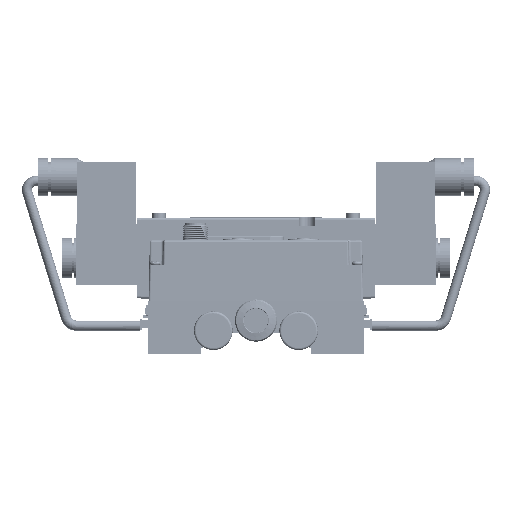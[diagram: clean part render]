
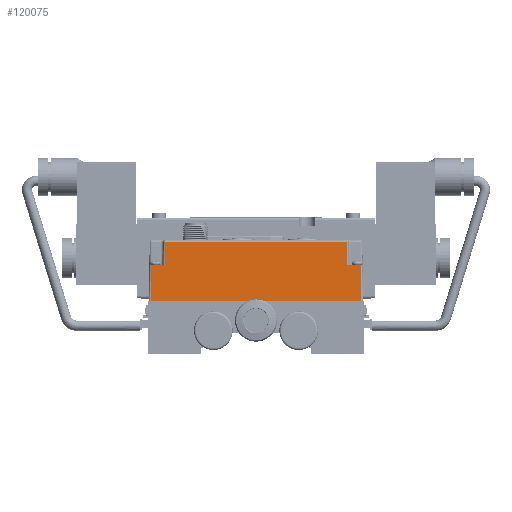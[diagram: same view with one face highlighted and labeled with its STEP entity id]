
A CAD part, front view. The second image highlights one B-rep face of the part: STEP entity #120075.
In plain terms, the highlighted planar face has unit normal (0, -1, 0.018).
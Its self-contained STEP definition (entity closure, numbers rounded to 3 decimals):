
#3819 = ORIENTED_EDGE ( 'NONE', *, *, #100760, .F. ) ;
#4365 = DIRECTION ( 'NONE',  ( 1., 0., 0. ) ) ;
#4432 = ORIENTED_EDGE ( 'NONE', *, *, #45980, .F. ) ;
#5757 = CARTESIAN_POINT ( 'NONE',  ( -1.909, 14.808, 43.7 ) ) ;
#7955 = CARTESIAN_POINT ( 'NONE',  ( -104.891, 14.809, 43.7 ) ) ;
#8032 = VECTOR ( 'NONE', #124791, 1000. ) ;
#9722 = LINE ( 'NONE', #134828, #143160 ) ;
#10818 = CARTESIAN_POINT ( 'NONE',  ( -104.891, 14.809, 43.7 ) ) ;
#11591 = EDGE_CURVE ( 'NONE', #91507, #58817, #12863, .T. ) ;
#11595 = VECTOR ( 'NONE', #4365, 1000. ) ;
#12863 = LINE ( 'NONE', #63759, #68106 ) ;
#15289 = VERTEX_POINT ( 'NONE', #98555 ) ;
#24155 = CARTESIAN_POINT ( 'NONE',  ( -8.798, 15.006, 55.017 ) ) ;
#29499 = VECTOR ( 'NONE', #71300, 1000. ) ;
#30001 = CARTESIAN_POINT ( 'NONE',  ( -98.2, 14.809, 43.7 ) ) ;
#30530 = ORIENTED_EDGE ( 'NONE', *, *, #98794, .F. ) ;
#32461 = LINE ( 'NONE', #30001, #56612 ) ;
#33926 = CARTESIAN_POINT ( 'NONE',  ( 0.847, 14.808, 43.7 ) ) ;
#38923 = ORIENTED_EDGE ( 'NONE', *, *, #11591, .F. ) ;
#43853 = VERTEX_POINT ( 'NONE', #163704 ) ;
#45980 = EDGE_CURVE ( 'NONE', #134361, #51264, #97314, .T. ) ;
#46273 = VECTOR ( 'NONE', #127210, 1000. ) ;
#47999 = ORIENTED_EDGE ( 'NONE', *, *, #48950, .F. ) ;
#48950 = EDGE_CURVE ( 'NONE', #51264, #15289, #32461, .T. ) ;
#51264 = VERTEX_POINT ( 'NONE', #89333 ) ;
#56612 = VECTOR ( 'NONE', #106721, 1000. ) ;
#58817 = VERTEX_POINT ( 'NONE', #82988 ) ;
#63759 = CARTESIAN_POINT ( 'NONE',  ( -8.798, 15.006, 55.017 ) ) ;
#64789 = ORIENTED_EDGE ( 'NONE', *, *, #95464, .F. ) ;
#68106 = VECTOR ( 'NONE', #114628, 1000. ) ;
#71300 = DIRECTION ( 'NONE',  ( 1., 0., 0. ) ) ;
#71469 = DIRECTION ( 'NONE',  ( 0.017, -0.017, -1. ) ) ;
#79945 = AXIS2_PLACEMENT_3D ( 'NONE', #87376, #153178, #100720 ) ;
#82988 = CARTESIAN_POINT ( 'NONE',  ( -8.6, 14.809, 43.7 ) ) ;
#85098 = DIRECTION ( 'NONE',  ( 0.017, 0.017, 1. ) ) ;
#87376 = CARTESIAN_POINT ( 'NONE',  ( 0.847, 14.5, 26. ) ) ;
#89333 = CARTESIAN_POINT ( 'NONE',  ( -98.2, 14.809, 43.7 ) ) ;
#91148 = LINE ( 'NONE', #156132, #11595 ) ;
#91507 = VERTEX_POINT ( 'NONE', #24155 ) ;
#95464 = EDGE_CURVE ( 'NONE', #15289, #91507, #91148, .T. ) ;
#97314 = LINE ( 'NONE', #33926, #8032 ) ;
#98555 = CARTESIAN_POINT ( 'NONE',  ( -98.003, 15.006, 55.017 ) ) ;
#98794 = EDGE_CURVE ( 'NONE', #58817, #145414, #148001, .T. ) ;
#99889 = FACE_OUTER_BOUND ( 'NONE', #110587, .T. ) ;
#100720 = DIRECTION ( 'NONE',  ( -1., 0., 0. ) ) ;
#100760 = EDGE_CURVE ( 'NONE', #143786, #134361, #150904, .T. ) ;
#101395 = LINE ( 'NONE', #138902, #46273 ) ;
#106721 = DIRECTION ( 'NONE',  ( 0.017, 0.017, 1. ) ) ;
#110587 = EDGE_LOOP ( 'NONE', ( #4432, #3819, #148613, #150693, #30530, #38923, #64789, #47999 ) ) ;
#114628 = DIRECTION ( 'NONE',  ( 0.017, -0.017, -1. ) ) ;
#116502 = EDGE_CURVE ( 'NONE', #145414, #43853, #9722, .T. ) ;
#120075 = ADVANCED_FACE ( 'NONE', ( #99889 ), #124903, .F. ) ;
#124791 = DIRECTION ( 'NONE',  ( 1., 0., 0. ) ) ;
#124903 = PLANE ( 'NONE',  #79945 ) ;
#127210 = DIRECTION ( 'NONE',  ( -1., 0., 0. ) ) ;
#129179 = EDGE_CURVE ( 'NONE', #43853, #143786, #101395, .T. ) ;
#133035 = CARTESIAN_POINT ( 'NONE',  ( 0.847, 14.808, 43.7 ) ) ;
#134361 = VERTEX_POINT ( 'NONE', #7955 ) ;
#134828 = CARTESIAN_POINT ( 'NONE',  ( -1.909, 14.808, 43.7 ) ) ;
#138647 = VECTOR ( 'NONE', #85098, 1000. ) ;
#138902 = CARTESIAN_POINT ( 'NONE',  ( -1.6, 14.5, 26. ) ) ;
#143160 = VECTOR ( 'NONE', #71469, 1000. ) ;
#143786 = VERTEX_POINT ( 'NONE', #162814 ) ;
#145414 = VERTEX_POINT ( 'NONE', #5757 ) ;
#148001 = LINE ( 'NONE', #133035, #29499 ) ;
#148613 = ORIENTED_EDGE ( 'NONE', *, *, #129179, .F. ) ;
#150693 = ORIENTED_EDGE ( 'NONE', *, *, #116502, .F. ) ;
#150904 = LINE ( 'NONE', #10818, #138647 ) ;
#153178 = DIRECTION ( 'NONE',  ( 0., 1., -0.017 ) ) ;
#156132 = CARTESIAN_POINT ( 'NONE',  ( -98.003, 15.006, 55.017 ) ) ;
#162814 = CARTESIAN_POINT ( 'NONE',  ( -105.2, 14.5, 26. ) ) ;
#163704 = CARTESIAN_POINT ( 'NONE',  ( -1.6, 14.5, 26. ) ) ;
